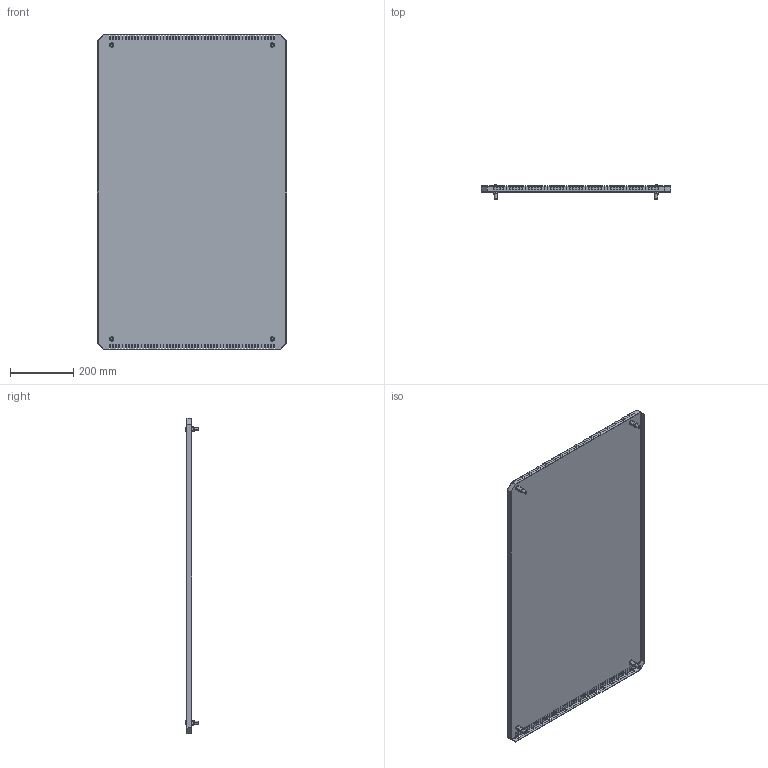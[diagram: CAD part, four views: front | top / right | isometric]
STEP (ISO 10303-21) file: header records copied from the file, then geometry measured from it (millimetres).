
FILE_DESCRIPTION (( 'STEP AP203' ), '1' );
FILE_NAME ('R 60.100 I Ïàíåëü òåëåêîììóíèêàöèîííàÿ ïîòîëî÷íàÿ.STEP', '2013-01-12T08:40:59', ( 'System' ), ( '' ), 'SwSTEP 2.0', 'SolidWorks 2012', '' );
FILE_SCHEMA (( 'CONFIG_CONTROL_DESIGN' ));
Products named in the file (1): R 60.100 I Ïàíåëü òåëåêîììóíèêàöèîííàÿ ïîòîëî÷íàÿ
Bounding box: 600 x 42.72 x 1000 mm (x, y, z)
Volume: 789992.2 mm3; surface area: 1305905.9 mm2
Topology: 5 solids, 9 shells, 1354 faces, 3632 edges, 2088 vertices
Faces by surface type: plane 990, cylinder 268, cone 56, bspline 16, torus 16, sphere 8
Entity records: 42229 total; most frequent: CARTESIAN_POINT 8455, ORIENTED_EDGE 7232, DIRECTION 6816, EDGE_CURVE 3616, VECTOR 2858, LINE 2858, VERTEX_POINT 2088, AXIS2_PLACEMENT_3D 1979
